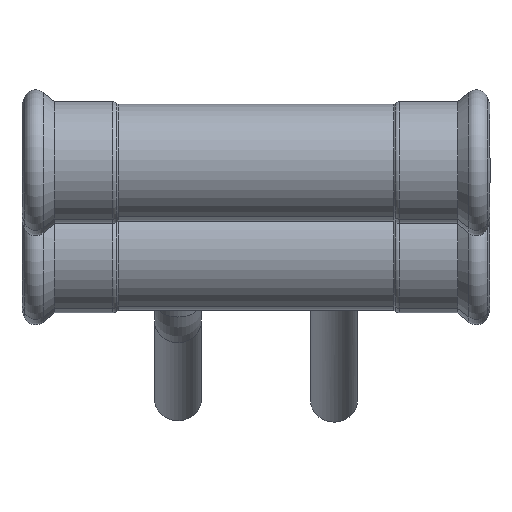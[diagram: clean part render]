
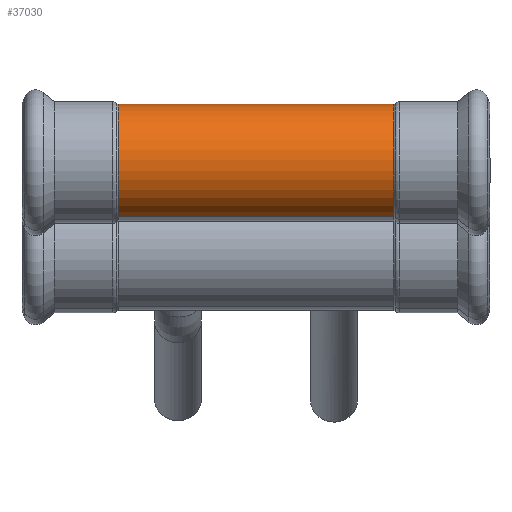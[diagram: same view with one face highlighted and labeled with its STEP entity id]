
A CAD part, top view. The second image highlights one B-rep face of the part: STEP entity #37030.
In plain terms, the highlighted cylindrical face has radius 15 mm (diameter 30 mm), a partial arc.
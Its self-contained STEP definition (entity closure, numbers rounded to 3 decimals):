
#35790=CARTESIAN_POINT('',(5.729,179.196,0.));
#35800=VERTEX_POINT('',#35790);
#35830=CARTESIAN_POINT('',(5.729,194.196,0.));
#35840=DIRECTION('',(1.,0.,0.));
#35850=DIRECTION('',(0.,-1.,0.));
#35860=AXIS2_PLACEMENT_3D('',#35830,#35840,#35850);
#35870=CIRCLE('',#35860,15.);
#35880=CARTESIAN_POINT('',(5.729,209.196,
0.));
#35890=VERTEX_POINT('',#35880);
#35900=EDGE_CURVE('',#35890,#35800,#35870,.T.);
#36720=CARTESIAN_POINT('',(-29.661,194.196,0.));
#36730=DIRECTION('',(-1.,0.,0.));
#36740=DIRECTION('',(0.,1.,0.));
#36750=AXIS2_PLACEMENT_3D('',#36720,#36730,#36740);
#36760=CYLINDRICAL_SURFACE('',#36750,15.);
#36770=CARTESIAN_POINT('',(-29.661,209.196,0.));
#36780=DIRECTION('',(-1.,0.,0.));
#36790=VECTOR('',#36780,1.);
#36800=LINE('',#36770,#36790);
#36810=CARTESIAN_POINT('',(-65.051,209.196,0.));
#36820=VERTEX_POINT('',#36810);
#36830=EDGE_CURVE('',#35890,#36820,#36800,.T.);
#36840=ORIENTED_EDGE('',*,*,#36830,.T.);
#36850=ORIENTED_EDGE('',*,*,#35900,.F.);
#36860=CARTESIAN_POINT('',(-29.661,179.196,
0.));
#36870=DIRECTION('',(-1.,0.,0.));
#36880=VECTOR('',#36870,1.);
#36890=LINE('',#36860,#36880);
#36900=CARTESIAN_POINT('',(-65.051,179.196,
0.));
#36910=VERTEX_POINT('',#36900);
#36920=EDGE_CURVE('',#35800,#36910,#36890,.T.);
#36930=ORIENTED_EDGE('',*,*,#36920,.F.);
#36940=CARTESIAN_POINT('',(-65.051,194.196,0.));
#36950=DIRECTION('',(1.,0.,0.));
#36960=DIRECTION('',(0.,-1.,0.));
#36970=AXIS2_PLACEMENT_3D('',#36940,#36950,#36960);
#36980=CIRCLE('',#36970,15.);
#36990=EDGE_CURVE('',#36820,#36910,#36980,.T.);
#37000=ORIENTED_EDGE('',*,*,#36990,.T.);
#37010=EDGE_LOOP('',(#37000,#36930,#36850,#36840));
#37020=FACE_OUTER_BOUND('',#37010,.T.);
#37030=ADVANCED_FACE('',(#37020),#36760,.T.);
